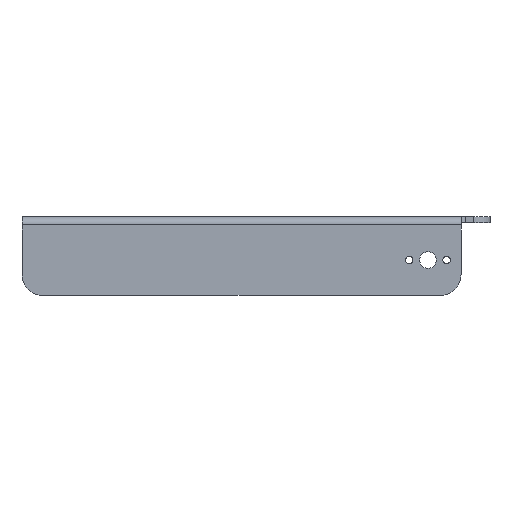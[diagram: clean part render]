
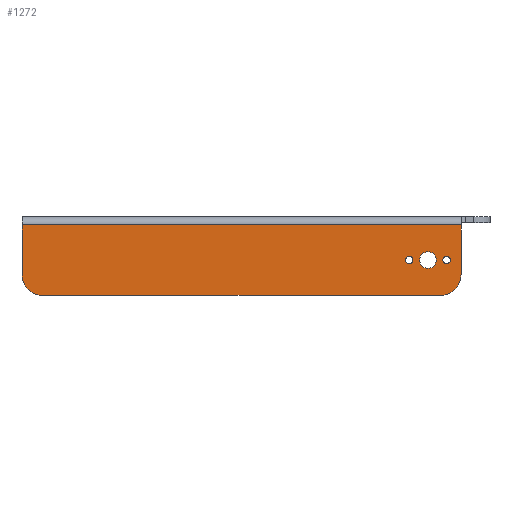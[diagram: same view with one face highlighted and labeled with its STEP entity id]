
A CAD part, left-side view. The second image highlights one B-rep face of the part: STEP entity #1272.
In plain terms, the highlighted planar face has unit normal (-1, 0, 0).
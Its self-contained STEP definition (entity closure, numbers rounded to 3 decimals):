
#34=FACE_BOUND('',#173,.T.);
#35=FACE_BOUND('',#174,.T.);
#36=FACE_BOUND('',#175,.T.);
#62=PLANE('',#1388);
#93=FACE_OUTER_BOUND('',#172,.T.);
#172=EDGE_LOOP('',(#945,#946,#947,#948,#949,#950));
#173=EDGE_LOOP('',(#951));
#174=EDGE_LOOP('',(#952));
#175=EDGE_LOOP('',(#953));
#286=LINE('',#2044,#394);
#287=LINE('',#2048,#395);
#288=LINE('',#2050,#396);
#289=LINE('',#2051,#397);
#394=VECTOR('',#1629,10.);
#395=VECTOR('',#1632,1.);
#396=VECTOR('',#1633,1.);
#397=VECTOR('',#1634,10.);
#495=CIRCLE('',#1386,5.);
#497=CIRCLE('',#1389,5.);
#498=CIRCLE('',#1390,2.);
#499=CIRCLE('',#1391,0.9);
#500=CIRCLE('',#1392,0.9);
#603=VERTEX_POINT('',#2034);
#604=VERTEX_POINT('',#2035);
#607=VERTEX_POINT('',#2043);
#608=VERTEX_POINT('',#2045);
#609=VERTEX_POINT('',#2047);
#610=VERTEX_POINT('',#2049);
#611=VERTEX_POINT('',#2052);
#612=VERTEX_POINT('',#2054);
#613=VERTEX_POINT('',#2056);
#737=EDGE_CURVE('',#603,#604,#495,.T.);
#741=EDGE_CURVE('',#607,#603,#286,.F.);
#742=EDGE_CURVE('',#608,#607,#497,.T.);
#743=EDGE_CURVE('',#608,#609,#287,.T.);
#744=EDGE_CURVE('',#610,#609,#288,.T.);
#745=EDGE_CURVE('',#610,#604,#289,.F.);
#746=EDGE_CURVE('',#611,#611,#498,.T.);
#747=EDGE_CURVE('',#612,#612,#499,.T.);
#748=EDGE_CURVE('',#613,#613,#500,.T.);
#945=ORIENTED_EDGE('',*,*,#737,.F.);
#946=ORIENTED_EDGE('',*,*,#741,.F.);
#947=ORIENTED_EDGE('',*,*,#742,.F.);
#948=ORIENTED_EDGE('',*,*,#743,.T.);
#949=ORIENTED_EDGE('',*,*,#744,.F.);
#950=ORIENTED_EDGE('',*,*,#745,.T.);
#951=ORIENTED_EDGE('',*,*,#746,.F.);
#952=ORIENTED_EDGE('',*,*,#747,.F.);
#953=ORIENTED_EDGE('',*,*,#748,.F.);
#1272=ADVANCED_FACE('',(#93,#34,#35,#36),#62,.T.);
#1386=AXIS2_PLACEMENT_3D('',#2036,#1621,#1622);
#1388=AXIS2_PLACEMENT_3D('',#2042,#1627,#1628);
#1389=AXIS2_PLACEMENT_3D('',#2046,#1630,#1631);
#1390=AXIS2_PLACEMENT_3D('',#2053,#1635,#1636);
#1391=AXIS2_PLACEMENT_3D('',#2055,#1637,#1638);
#1392=AXIS2_PLACEMENT_3D('',#2057,#1639,#1640);
#1621=DIRECTION('center_axis',(1.,0.,0.));
#1622=DIRECTION('ref_axis',(0.,0.707,-0.707));
#1627=DIRECTION('center_axis',(-1.,0.,0.));
#1628=DIRECTION('ref_axis',(0.,1.,0.));
#1629=DIRECTION('',(0.,-1.,0.));
#1630=DIRECTION('center_axis',(1.,0.,0.));
#1631=DIRECTION('ref_axis',(0.,-0.707,-0.707));
#1632=DIRECTION('',(0.,0.,1.));
#1633=DIRECTION('',(0.,-1.,0.));
#1634=DIRECTION('',(0.,0.,1.));
#1635=DIRECTION('center_axis',(-1.,0.,0.));
#1636=DIRECTION('ref_axis',(0.,-1.,0.));
#1637=DIRECTION('center_axis',(-1.,0.,0.));
#1638=DIRECTION('ref_axis',(0.,0.,1.));
#1639=DIRECTION('center_axis',(-1.,0.,0.));
#1640=DIRECTION('ref_axis',(0.,0.,1.));
#2034=CARTESIAN_POINT('',(-7.5,100.,-18.));
#2035=CARTESIAN_POINT('',(-7.5,105.,-13.));
#2036=CARTESIAN_POINT('Origin',(-7.5,100.,-13.));
#2042=CARTESIAN_POINT('Origin',(-7.5,0.,0.));
#2043=CARTESIAN_POINT('',(-7.5,4.,-18.));
#2044=CARTESIAN_POINT('',(-7.5,0.,-18.));
#2045=CARTESIAN_POINT('',(-7.5,-1.,-13.));
#2046=CARTESIAN_POINT('Origin',(-7.5,4.,-13.));
#2047=CARTESIAN_POINT('',(-7.5,-1.,-1.));
#2048=CARTESIAN_POINT('',(-7.5,-1.,0.));
#2049=CARTESIAN_POINT('',(-7.5,105.,-1.));
#2050=CARTESIAN_POINT('',(-7.5,0.,-1.));
#2051=CARTESIAN_POINT('',(-7.5,105.,0.));
#2052=CARTESIAN_POINT('',(-7.5,9.,-9.5));
#2053=CARTESIAN_POINT('Origin',(-7.5,7.,-9.5));
#2054=CARTESIAN_POINT('',(-7.5,11.5,-10.4));
#2055=CARTESIAN_POINT('Origin',(-7.5,11.5,-9.5));
#2056=CARTESIAN_POINT('',(-7.5,2.5,-10.4));
#2057=CARTESIAN_POINT('Origin',(-7.5,2.5,-9.5));
